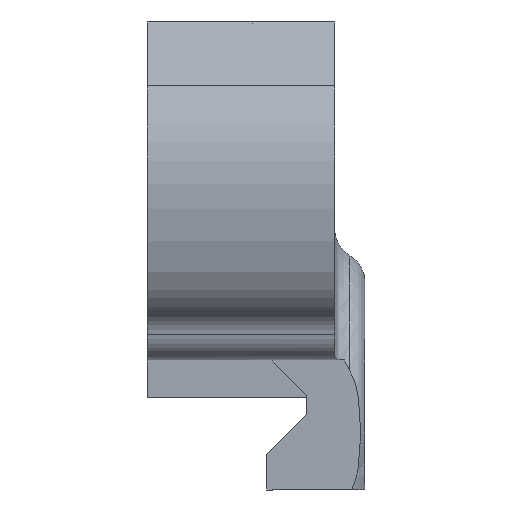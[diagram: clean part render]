
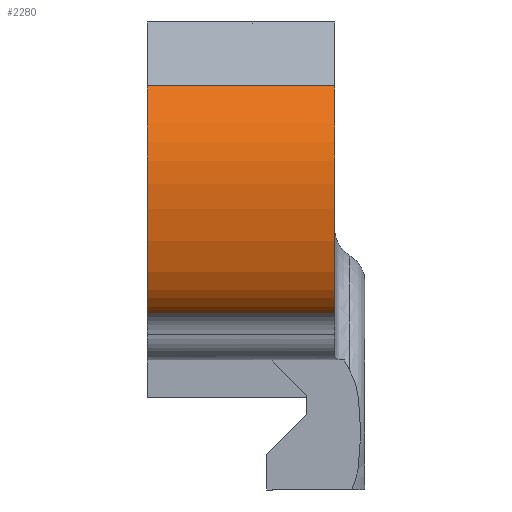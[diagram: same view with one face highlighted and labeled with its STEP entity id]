
A CAD part, left-side view. The second image highlights one B-rep face of the part: STEP entity #2280.
In plain terms, the highlighted free-form (B-spline) face has degree [3, 1] with [11, 2] control points.
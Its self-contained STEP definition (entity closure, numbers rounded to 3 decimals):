
#32 = ORIENTED_EDGE ( 'NONE', *, *, #121, .T. ) ;
#94 = CARTESIAN_POINT ( 'NONE',  ( 136.694, 0., -69.453 ) ) ;
#121 = EDGE_CURVE ( 'NONE', #913, #1967, #2427, .T. ) ;
#161 = CARTESIAN_POINT ( 'NONE',  ( 135.052, 0., -63.377 ) ) ;
#195 = ORIENTED_EDGE ( 'NONE', *, *, #2796, .T. ) ;
#272 = VECTOR ( 'NONE', #1554, 1000. ) ;
#305 = CARTESIAN_POINT ( 'NONE',  ( 138.091, 0., -70.685 ) ) ;
#387 = CARTESIAN_POINT ( 'NONE',  ( 136.265, -12.445, -57.393 ) ) ;
#608 = CARTESIAN_POINT ( 'NONE',  ( 135.339, 0., -65.513 ) ) ;
#624 = CARTESIAN_POINT ( 'NONE',  ( 135.845, -12.445, -67.607 ) ) ;
#636 = CARTESIAN_POINT ( 'NONE',  ( 135.03, -12.445, -61.218 ) ) ;
#654 = CARTESIAN_POINT ( 'NONE',  ( 135.052, -12.445, -63.377 ) ) ;
#839 = CARTESIAN_POINT ( 'NONE',  ( 135.03, 0., -61.218 ) ) ;
#858 = B_SPLINE_CURVE_WITH_KNOTS ( 'NONE', 3,
 ( #1984, #2262, #2514, #2489, #839, #1300, #2029, #1503, #94, #2971, #305 ),
 .UNSPECIFIED., .F., .F.,
 ( 4, 1, 1, 1, 1, 1, 1, 1, 4 ),
 ( 0.01, 0.013, 0.015, 0.017, 0.019, 0.022, 0.024, 0.026, 0.028 ),
 .UNSPECIFIED. ) ;
#913 = VERTEX_POINT ( 'NONE', #2628 ) ;
#1054 = ORIENTED_EDGE ( 'NONE', *, *, #2304, .F. ) ;
#1102 = CARTESIAN_POINT ( 'NONE',  ( 136.694, -12.445, -69.453 ) ) ;
#1110 = CARTESIAN_POINT ( 'NONE',  ( 135.03, 0., -61.218 ) ) ;
#1197 = VERTEX_POINT ( 'NONE', #1263 ) ;
#1263 = CARTESIAN_POINT ( 'NONE',  ( 138.091, 0., -70.685 ) ) ;
#1298 = EDGE_CURVE ( 'NONE', #913, #1428, #1797, .T. ) ;
#1300 = CARTESIAN_POINT ( 'NONE',  ( 135.052, 0., -63.377 ) ) ;
#1318 = CARTESIAN_POINT ( 'NONE',  ( 137.5, -12.445, -55.565 ) ) ;
#1326 = CARTESIAN_POINT ( 'NONE',  ( 136.265, 0., -57.393 ) ) ;
#1334 = CARTESIAN_POINT ( 'NONE',  ( 138.091, -12.445, -70.685 ) ) ;
#1348 = CARTESIAN_POINT ( 'NONE',  ( 135.03, -12.445, -61.218 ) ) ;
#1363 = CARTESIAN_POINT ( 'NONE',  ( 135.369, -12.445, -59.25 ) ) ;
#1364 = CARTESIAN_POINT ( 'NONE',  ( 135.845, 0., -67.607 ) ) ;
#1428 = VERTEX_POINT ( 'NONE', #2360 ) ;
#1503 = CARTESIAN_POINT ( 'NONE',  ( 135.845, 0., -67.607 ) ) ;
#1554 = DIRECTION ( 'NONE',  ( 0., 1., 0. ) ) ;
#1570 = CARTESIAN_POINT ( 'NONE',  ( 137.087, -12.445, -56.161 ) ) ;
#1583 = CARTESIAN_POINT ( 'NONE',  ( 137.57, -12.445, -70.346 ) ) ;
#1584 = B_SPLINE_SURFACE_WITH_KNOTS ( 'NONE', 3, 1, ( 
 ( #1334, #1791 ),
 ( #1583, #2032 ),
 ( #1102, #3009 ),
 ( #624, #1364 ),
 ( #2776, #608 ),
 ( #654, #161 ),
 ( #1348, #1110 ),
 ( #3028, #2806 ),
 ( #387, #1326 ),
 ( #1570, #2301 ),
 ( #2065, #2292 ) ),
 .UNSPECIFIED., .F., .F., .F.,
 ( 4, 1, 1, 1, 1, 1, 1, 1, 4 ),
 ( 2, 2 ),
 ( 0., 0.002, 0.005, 0.007, 0.009, 0.011, 0.014, 0.016, 0.018 ),
 ( 0., 1. ),
 .UNSPECIFIED. ) ;
#1674 = EDGE_LOOP ( 'NONE', ( #195, #1054, #1899, #32 ) ) ;
#1762 = DIRECTION ( 'NONE',  ( 0., 1., 0. ) ) ;
#1791 = CARTESIAN_POINT ( 'NONE',  ( 138.091, 0., -70.685 ) ) ;
#1797 = B_SPLINE_CURVE_WITH_KNOTS ( 'NONE', 3,
 ( #1318, #2533, #2766, #1363, #636, #2547, #3007, #2997, #2788, #1822, #3016 ),
 .UNSPECIFIED., .F., .F.,
 ( 4, 1, 1, 1, 1, 1, 1, 1, 4 ),
 ( 0.01, 0.013, 0.015, 0.017, 0.019, 0.022, 0.024, 0.026, 0.028 ),
 .UNSPECIFIED. ) ;
#1822 = CARTESIAN_POINT ( 'NONE',  ( 137.57, -12.445, -70.346 ) ) ;
#1899 = ORIENTED_EDGE ( 'NONE', *, *, #1298, .F. ) ;
#1920 = FACE_OUTER_BOUND ( 'NONE', #1674, .T. ) ;
#1967 = VERTEX_POINT ( 'NONE', #2643 ) ;
#1984 = CARTESIAN_POINT ( 'NONE',  ( 137.5, 0., -55.565 ) ) ;
#2029 = CARTESIAN_POINT ( 'NONE',  ( 135.339, 0., -65.513 ) ) ;
#2032 = CARTESIAN_POINT ( 'NONE',  ( 137.57, 0., -70.346 ) ) ;
#2065 = CARTESIAN_POINT ( 'NONE',  ( 137.5, -12.445, -55.565 ) ) ;
#2262 = CARTESIAN_POINT ( 'NONE',  ( 137.087, 0., -56.161 ) ) ;
#2280 = ADVANCED_FACE ( 'NONE', ( #1920 ), #1584, .F. ) ;
#2292 = CARTESIAN_POINT ( 'NONE',  ( 137.5, 0., -55.565 ) ) ;
#2301 = CARTESIAN_POINT ( 'NONE',  ( 137.087, 0., -56.161 ) ) ;
#2304 = EDGE_CURVE ( 'NONE', #1428, #1197, #2382, .T. ) ;
#2322 = CARTESIAN_POINT ( 'NONE',  ( 138.091, -12.445, -70.685 ) ) ;
#2352 = VECTOR ( 'NONE', #1762, 1000. ) ;
#2360 = CARTESIAN_POINT ( 'NONE',  ( 138.091, -12.445, -70.685 ) ) ;
#2382 = LINE ( 'NONE', #2322, #272 ) ;
#2427 = LINE ( 'NONE', #2517, #2352 ) ;
#2489 = CARTESIAN_POINT ( 'NONE',  ( 135.369, 0., -59.25 ) ) ;
#2514 = CARTESIAN_POINT ( 'NONE',  ( 136.265, 0., -57.393 ) ) ;
#2517 = CARTESIAN_POINT ( 'NONE',  ( 137.5, -12.445, -55.565 ) ) ;
#2533 = CARTESIAN_POINT ( 'NONE',  ( 137.087, -12.445, -56.161 ) ) ;
#2547 = CARTESIAN_POINT ( 'NONE',  ( 135.052, -12.445, -63.377 ) ) ;
#2628 = CARTESIAN_POINT ( 'NONE',  ( 137.5, -12.445, -55.565 ) ) ;
#2643 = CARTESIAN_POINT ( 'NONE',  ( 137.5, 0., -55.565 ) ) ;
#2766 = CARTESIAN_POINT ( 'NONE',  ( 136.265, -12.445, -57.393 ) ) ;
#2776 = CARTESIAN_POINT ( 'NONE',  ( 135.339, -12.445, -65.513 ) ) ;
#2788 = CARTESIAN_POINT ( 'NONE',  ( 136.694, -12.445, -69.453 ) ) ;
#2796 = EDGE_CURVE ( 'NONE', #1967, #1197, #858, .T. ) ;
#2806 = CARTESIAN_POINT ( 'NONE',  ( 135.369, 0., -59.25 ) ) ;
#2971 = CARTESIAN_POINT ( 'NONE',  ( 137.57, 0., -70.346 ) ) ;
#2997 = CARTESIAN_POINT ( 'NONE',  ( 135.845, -12.445, -67.607 ) ) ;
#3007 = CARTESIAN_POINT ( 'NONE',  ( 135.339, -12.445, -65.513 ) ) ;
#3009 = CARTESIAN_POINT ( 'NONE',  ( 136.694, 0., -69.453 ) ) ;
#3016 = CARTESIAN_POINT ( 'NONE',  ( 138.091, -12.445, -70.685 ) ) ;
#3028 = CARTESIAN_POINT ( 'NONE',  ( 135.369, -12.445, -59.25 ) ) ;
